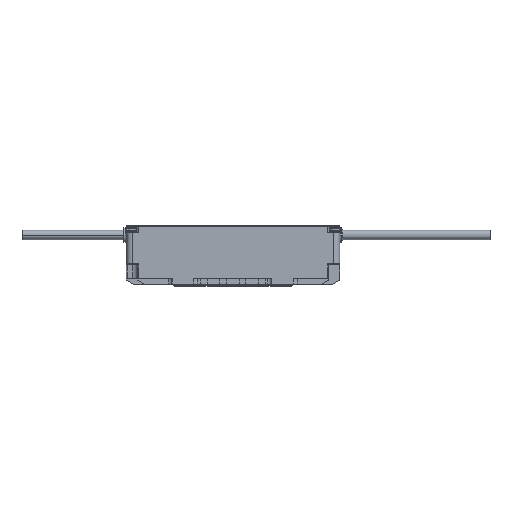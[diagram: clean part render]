
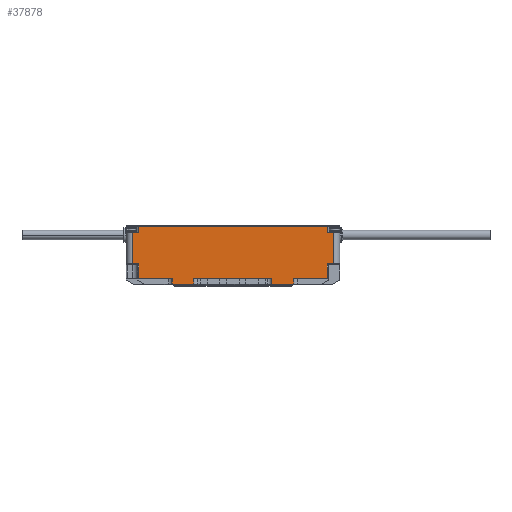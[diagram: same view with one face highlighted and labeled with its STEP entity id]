
A CAD part, front view. The second image highlights one B-rep face of the part: STEP entity #37878.
In plain terms, the highlighted planar face has unit normal (0, -1, 0).
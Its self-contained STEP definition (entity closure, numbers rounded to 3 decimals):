
#293=DIRECTION('',(-1.,0.,0.));
#294=VECTOR('',#293,3.5);
#295=CARTESIAN_POINT('',(54.7,-24.7,7.8));
#296=LINE('',#295,#294);
#297=DIRECTION('',(0.,0.,-1.));
#298=VECTOR('',#297,7.9);
#299=CARTESIAN_POINT('',(51.2,-24.7,7.8));
#300=LINE('',#299,#298);
#301=DIRECTION('',(0.,0.,-1.));
#302=VECTOR('',#301,3.1);
#303=CARTESIAN_POINT('',(33.058,-24.7,-0.1));
#304=LINE('',#303,#302);
#305=DIRECTION('',(-1.,0.,0.));
#306=VECTOR('',#305,11.915);
#307=CARTESIAN_POINT('',(33.058,-24.7,-3.2));
#308=LINE('',#307,#306);
#309=DIRECTION('',(0.,0.,1.));
#310=VECTOR('',#309,3.1);
#311=CARTESIAN_POINT('',(21.142,-24.7,-3.2));
#312=LINE('',#311,#310);
#313=DIRECTION('',(0.,0.,-1.));
#314=VECTOR('',#313,3.1);
#315=CARTESIAN_POINT('',(-21.142,-24.7,-0.1));
#316=LINE('',#315,#314);
#317=DIRECTION('',(-1.,0.,0.));
#318=VECTOR('',#317,11.915);
#319=CARTESIAN_POINT('',(-21.142,-24.7,
-3.2));
#320=LINE('',#319,#318);
#321=DIRECTION('',(0.,0.,1.));
#322=VECTOR('',#321,3.1);
#323=CARTESIAN_POINT('',(-33.058,-24.7,
-3.2));
#324=LINE('',#323,#322);
#325=DIRECTION('',(0.,0.,1.));
#326=VECTOR('',#325,7.9);
#327=CARTESIAN_POINT('',(-51.2,-24.7,-0.1));
#328=LINE('',#327,#326);
#329=DIRECTION('',(-1.,0.,0.));
#330=VECTOR('',#329,3.5);
#331=CARTESIAN_POINT('',(-51.2,-24.7,7.8));
#332=LINE('',#331,#330);
#333=DIRECTION('',(0.,0.,1.));
#334=VECTOR('',#333,16.9);
#335=CARTESIAN_POINT('',(-54.7,-24.7,7.8));
#336=LINE('',#335,#334);
#337=DIRECTION('',(1.,0.,0.));
#338=VECTOR('',#337,3.2);
#339=CARTESIAN_POINT('',(-54.7,-24.7,24.7));
#340=LINE('',#339,#338);
#341=DIRECTION('',(1.,0.,0.));
#342=VECTOR('',#341,103.);
#343=CARTESIAN_POINT('',(-51.5,-24.7,28.3));
#344=LINE('',#343,#342);
#345=DIRECTION('',(1.,0.,0.));
#346=VECTOR('',#345,3.2);
#347=CARTESIAN_POINT('',(51.5,-24.7,24.7));
#348=LINE('',#347,#346);
#353=DIRECTION('',(0.,0.,1.));
#354=VECTOR('',#353,16.9);
#355=CARTESIAN_POINT('',(54.7,-24.7,7.8));
#356=LINE('',#355,#354);
#1791=DIRECTION('',(1.,0.,0.));
#1792=VECTOR('',#1791,18.142);
#1793=CARTESIAN_POINT('',(-51.2,-24.7,-0.1));
#1794=LINE('',#1793,#1792);
#1900=DIRECTION('',(1.,0.,0.));
#1901=VECTOR('',#1900,42.285);
#1902=CARTESIAN_POINT('',(-21.142,-24.7,-0.1));
#1903=LINE('',#1902,#1901);
#3232=DIRECTION('',(1.,0.,0.));
#3233=VECTOR('',#3232,18.142);
#3234=CARTESIAN_POINT('',(33.058,-24.7,-0.1));
#3235=LINE('',#3234,#3233);
#25490=DIRECTION('',(0.,0.,-1.));
#25491=VECTOR('',#25490,3.6);
#25492=CARTESIAN_POINT('',(-51.5,-24.7,
28.3));
#25493=LINE('',#25492,#25491);
#27619=DIRECTION('',(0.,0.,1.));
#27620=VECTOR('',#27619,3.6);
#27621=CARTESIAN_POINT('',(51.5,-24.7,
24.7));
#27622=LINE('',#27621,#27620);
#30550=CARTESIAN_POINT('',(54.7,-24.7,24.7));
#30551=VERTEX_POINT('',#30550);
#30561=CARTESIAN_POINT('',(51.5,-24.7,
24.7));
#30562=VERTEX_POINT('',#30561);
#30563=CARTESIAN_POINT('',(-51.5,-24.7,
28.3));
#30564=CARTESIAN_POINT('',(51.5,-24.7,
28.3));
#30565=VERTEX_POINT('',#30563);
#30566=VERTEX_POINT('',#30564);
#30567=CARTESIAN_POINT('',(-54.7,-24.7,
24.7));
#30568=CARTESIAN_POINT('',(-51.5,-24.7,
24.7));
#30569=VERTEX_POINT('',#30567);
#30570=VERTEX_POINT('',#30568);
#33143=CARTESIAN_POINT('',(-54.7,-24.7,7.8));
#33144=VERTEX_POINT('',#33143);
#33145=CARTESIAN_POINT('',(54.7,-24.7,
7.8));
#33146=CARTESIAN_POINT('',(51.2,-24.7,
7.8));
#33147=VERTEX_POINT('',#33145);
#33148=VERTEX_POINT('',#33146);
#33149=CARTESIAN_POINT('',(51.2,-24.7,-0.1));
#33150=VERTEX_POINT('',#33149);
#33151=CARTESIAN_POINT('',(33.058,-24.7,-0.1));
#33152=VERTEX_POINT('',#33151);
#33153=CARTESIAN_POINT('',(33.058,-24.7,
-3.2));
#33154=VERTEX_POINT('',#33153);
#33155=CARTESIAN_POINT('',(21.142,-24.7,
-3.2));
#33156=VERTEX_POINT('',#33155);
#33157=CARTESIAN_POINT('',(21.142,-24.7,-0.1));
#33158=VERTEX_POINT('',#33157);
#33159=CARTESIAN_POINT('',(-21.142,-24.7,-0.1));
#33160=VERTEX_POINT('',#33159);
#33161=CARTESIAN_POINT('',(-21.142,-24.7,
-3.2));
#33162=VERTEX_POINT('',#33161);
#33163=CARTESIAN_POINT('',(-33.058,-24.7,
-3.2));
#33164=VERTEX_POINT('',#33163);
#33165=CARTESIAN_POINT('',(-33.058,-24.7,-0.1));
#33166=VERTEX_POINT('',#33165);
#33167=CARTESIAN_POINT('',(-51.2,-24.7,-0.1));
#33168=VERTEX_POINT('',#33167);
#33169=CARTESIAN_POINT('',(-51.2,-24.7,
7.8));
#33170=VERTEX_POINT('',#33169);
#37832=CARTESIAN_POINT('',(-54.7,-24.7,23.5));
#37833=DIRECTION('',(0.,-1.,0.));
#37834=DIRECTION('',(1.,0.,0.));
#37835=AXIS2_PLACEMENT_3D('',#37832,#37833,#37834);
#37836=PLANE('',#37835);
#37838=ORIENTED_EDGE('',*,*,#37837,.F.);
#37840=ORIENTED_EDGE('',*,*,#37839,.T.);
#37842=ORIENTED_EDGE('',*,*,#37841,.T.);
#37844=ORIENTED_EDGE('',*,*,#37843,.F.);
#37846=ORIENTED_EDGE('',*,*,#37845,.T.);
#37848=ORIENTED_EDGE('',*,*,#37847,.T.);
#37850=ORIENTED_EDGE('',*,*,#37849,.T.);
#37852=ORIENTED_EDGE('',*,*,#37851,.F.);
#37854=ORIENTED_EDGE('',*,*,#37853,.T.);
#37856=ORIENTED_EDGE('',*,*,#37855,.T.);
#37858=ORIENTED_EDGE('',*,*,#37857,.T.);
#37860=ORIENTED_EDGE('',*,*,#37859,.F.);
#37862=ORIENTED_EDGE('',*,*,#37861,.T.);
#37864=ORIENTED_EDGE('',*,*,#37863,.T.);
#37865=ORIENTED_EDGE('',*,*,#37822,.T.);
#37867=ORIENTED_EDGE('',*,*,#37866,.T.);
#37869=ORIENTED_EDGE('',*,*,#37868,.F.);
#37871=ORIENTED_EDGE('',*,*,#37870,.T.);
#37873=ORIENTED_EDGE('',*,*,#37872,.F.);
#37875=ORIENTED_EDGE('',*,*,#37874,.T.);
#37876=EDGE_LOOP('',(#37838,#37840,#37842,#37844,#37846,#37848,#37850,#37852,
#37854,#37856,#37858,#37860,#37862,#37864,#37865,#37867,#37869,#37871,#37873,
#37875));
#37877=FACE_OUTER_BOUND('',#37876,.F.);
#37878=ADVANCED_FACE('',(#37877),#37836,.T.);
#37822=EDGE_CURVE('',#33144,#30569,#336,.T.);
#37837=EDGE_CURVE('',#33147,#30551,#356,.T.);
#37839=EDGE_CURVE('',#33147,#33148,#296,.T.);
#37841=EDGE_CURVE('',#33148,#33150,#300,.T.);
#37843=EDGE_CURVE('',#33152,#33150,#3235,.T.);
#37845=EDGE_CURVE('',#33152,#33154,#304,.T.);
#37847=EDGE_CURVE('',#33154,#33156,#308,.T.);
#37849=EDGE_CURVE('',#33156,#33158,#312,.T.);
#37851=EDGE_CURVE('',#33160,#33158,#1903,.T.);
#37853=EDGE_CURVE('',#33160,#33162,#316,.T.);
#37855=EDGE_CURVE('',#33162,#33164,#320,.T.);
#37857=EDGE_CURVE('',#33164,#33166,#324,.T.);
#37859=EDGE_CURVE('',#33168,#33166,#1794,.T.);
#37861=EDGE_CURVE('',#33168,#33170,#328,.T.);
#37863=EDGE_CURVE('',#33170,#33144,#332,.T.);
#37866=EDGE_CURVE('',#30569,#30570,#340,.T.);
#37868=EDGE_CURVE('',#30565,#30570,#25493,.T.);
#37870=EDGE_CURVE('',#30565,#30566,#344,.T.);
#37872=EDGE_CURVE('',#30562,#30566,#27622,.T.);
#37874=EDGE_CURVE('',#30562,#30551,#348,.T.);
